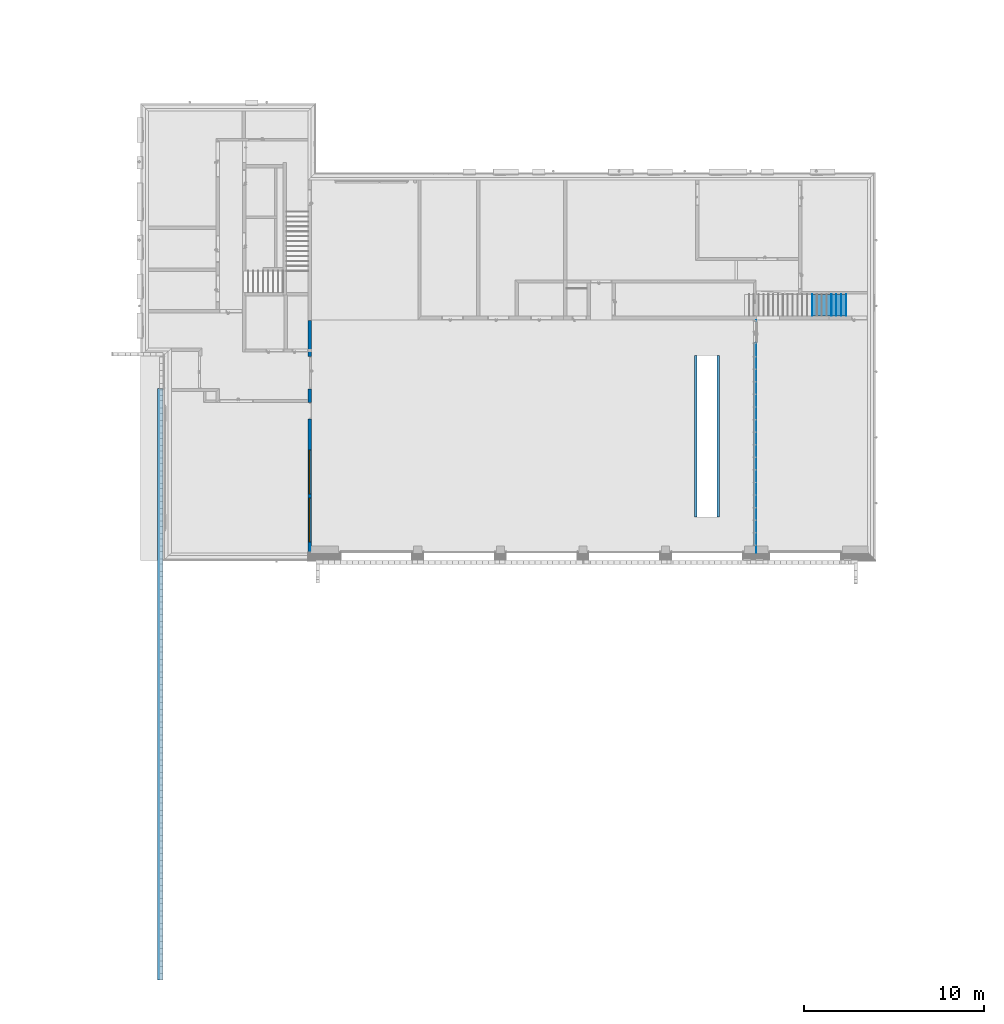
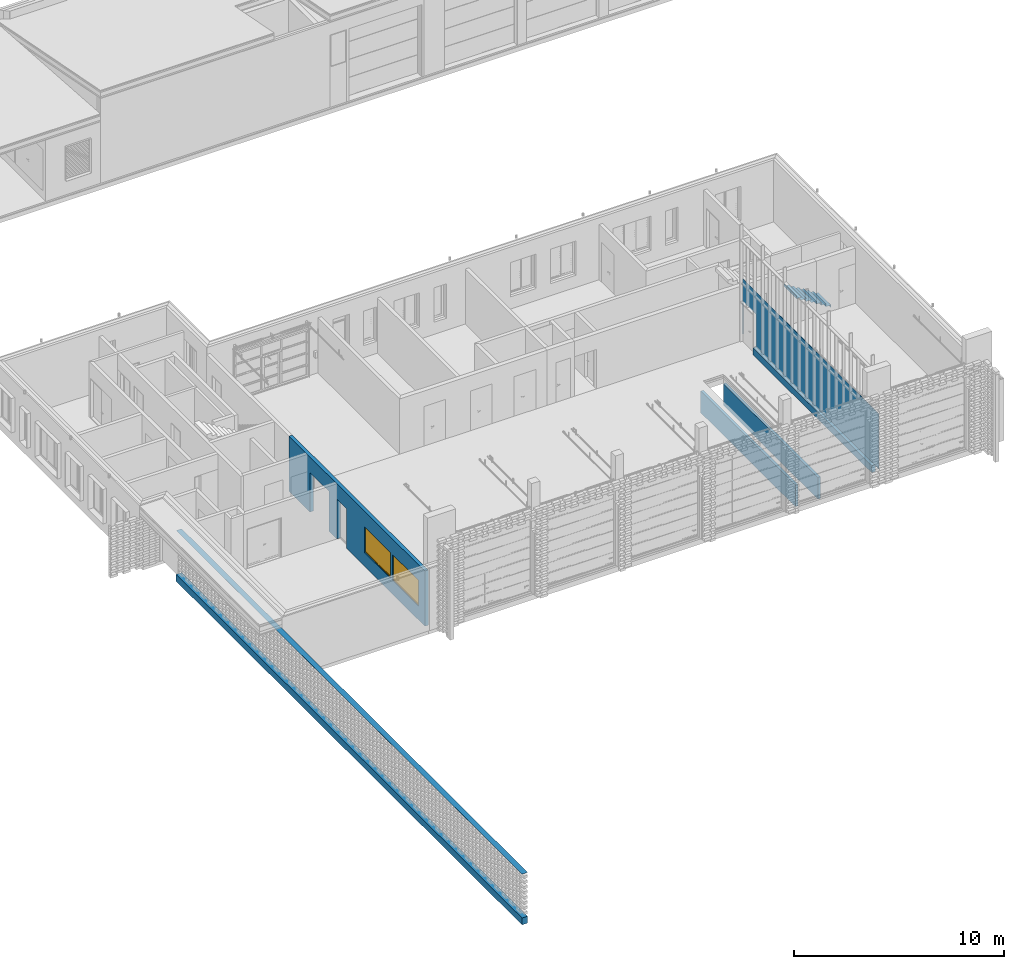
# One storey, part 6 of 62: 12 members, 7 walls, 2 windows, 5 openings, 1 element without a shape of its own.
"""IFC2X3 building model written with IfcOpenShell, lengths in millimetres."""

from ifc_helpers import new_model, entity, si_unit, converted_unit, derived_unit, money_unit, direction, frame, origin_with_axes, origin_2d_with_axis, place, context, subcontext, project, spatial, polyline, rectangle, outline, extrude, open_shell, faceted_brep, surface_model, source, transform, mapped, material, layer, layer_set, layer_usage, type_object, element, fill, aggregate, save


model = new_model("IFC2X3")

# Units and contexts
model_context = context("Model", 3, precision=0.01, world=origin_with_axes(), true_north=direction((0.0, 1.0)))
body_context = subcontext(model_context, "Body", "Model", "MODEL_VIEW")
ifc_project = project(units=[si_unit("LENGTHUNIT", "METRE", prefix="MILLI"), si_unit("AREAUNIT", "SQUARE_METRE"), si_unit("VOLUMEUNIT", "CUBIC_METRE"), converted_unit("PLANEANGLEUNIT", "DEGREE", entity("IfcPlaneAngleMeasure", 0.0174532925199), si_unit("PLANEANGLEUNIT", "RADIAN"), dimensions=[0, 0, 0, 0, 0, 0, 0]), si_unit("SOLIDANGLEUNIT", "STERADIAN"), money_unit("EUR"), converted_unit("TIMEUNIT", "Year", entity("IfcTimeMeasure", 31556926.0), si_unit("TIMEUNIT", "SECOND"), dimensions=[0, 0, 1, 0, 0, 0, 0]), si_unit("MASSUNIT", "GRAM", prefix="KILO"), si_unit("THERMODYNAMICTEMPERATUREUNIT", "DEGREE_CELSIUS"), si_unit("LUMINOUSINTENSITYUNIT", "LUMEN"), si_unit("ENERGYUNIT", "JOULE", prefix="MEGA"), derived_unit("THERMALCONDUCTANCEUNIT", [(si_unit("POWERUNIT", "WATT"), 1), (si_unit("LENGTHUNIT", "METRE"), -1), (si_unit("THERMODYNAMICTEMPERATUREUNIT", "KELVIN"), -1)]), derived_unit("SPECIFICHEATCAPACITYUNIT", [(si_unit("ENERGYUNIT", "JOULE"), 1), (si_unit("MASSUNIT", "GRAM", prefix="KILO"), -1), (si_unit("THERMODYNAMICTEMPERATUREUNIT", "KELVIN"), -1)]), derived_unit("MASSDENSITYUNIT", [(si_unit("MASSUNIT", "GRAM", prefix="KILO"), 1), (si_unit("VOLUMEUNIT", "CUBIC_METRE"), -1)])], contexts=[model_context])

# Site, building, storey
site_placement = place(None, origin_with_axes())
site = spatial("IfcSite", under=ifc_project, at=site_placement, Name="KIRDE 14, ELVA", CompositionType="ELEMENT")
building_placement = place(site_placement, origin_with_axes())
building = spatial("IfcBuilding", under=site, at=building_placement, Name="PPA ja Päästeameti ühishoone", CompositionType="ELEMENT")
storey_placement = place(building_placement, origin_with_axes())
storey = spatial("IfcBuildingStorey", under=building, at=storey_placement, Name="Esimene korrus", CompositionType="ELEMENT", Elevation=0.0)

# Stair, members
stair_placement = place(storey_placement, frame((38844.704885, 14400.0005642, 0.0), z_axis=(0.0, 0.0, 1.0), x_axis=(0.845542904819, 0.533907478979, 0.0)))
stair = element("IfcStair", 1, at=stair_placement, inside=storey, Name="TREPP", ShapeType="NOTDEFINED")
ifc_material_1 = material(Name="SV-02_Puit - Põrand")
member_type_1 = type_object("IfcMemberType", Name="IfcMember", PredefinedType="USERDEFINED")
member_1_placement = place(stair_placement, frame((-320.344487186, -507.325743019, 166.428571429), z_axis=(0.0, 0.0, 1.0), x_axis=(0.533907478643, 0.845542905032, 0.0)))
member_1 = element("IfcMember", 2, at=member_1_placement, type_object=member_type_1, material=ifc_material_1, Name="TV TÕUS - 021", ObjectType="Stair Riser", context=body_context, shape_type="Brep", body=[
    faceted_brep([(600.0, 0.0, 0.0), (600.0, 5.0, 0.0), (-600.0, 5.0, 0.0), (-600.0, 0.0, 0.0), (600.0, 0.0, -166.428571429), (600.0, 5.0, -166.428571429), (-600.0, 5.0, -166.428571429), (-600.0, 0.0, -166.428571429)], [[[0, 1, 2, 3]], [[0, 4, 5, 1]], [[1, 5, 6, 2]], [[3, 2, 6, 7]], [[4, 0, 3, 7]], [[5, 4, 7, 6]]]),
])
member_2_placement = place(stair_placement, frame((-548.641071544, -363.170723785, 337.857142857), z_axis=(0.0, 0.0, 1.0), x_axis=(0.533907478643, 0.845542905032, 0.0)))
member_2 = element("IfcMember", 3, at=member_2_placement, type_object=member_type_1, material=ifc_material_1, Name="TV TÕUS - 022", ObjectType="Stair Riser", context=body_context, shape_type="Brep", body=[
    faceted_brep([(600.0, 0.0, 0.0), (600.0, 5.0, 0.0), (-600.0, 5.0, 0.0), (-600.0, 0.0, 0.0), (600.0, 0.0, -166.428571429), (600.0, 5.0, -166.428571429), (-600.0, 5.0, -166.428571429), (-600.0, 0.0, -166.428571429)], [[[0, 1, 2, 3]], [[0, 4, 5, 1]], [[1, 5, 6, 2]], [[3, 2, 6, 7]], [[4, 0, 3, 7]], [[5, 4, 7, 6]]]),
])
member_3_placement = place(stair_placement, frame((-776.937655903, -219.015704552, 509.285714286), z_axis=(0.0, 0.0, 1.0), x_axis=(0.533907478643, 0.845542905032, 0.0)))
member_3 = element("IfcMember", 4, at=member_3_placement, type_object=member_type_1, material=ifc_material_1, Name="TV TÕUS - 023", ObjectType="Stair Riser", context=body_context, shape_type="Brep", body=[
    faceted_brep([(600.0, 0.0, 0.0), (600.0, 5.0, 0.0), (-600.0, 5.0, 0.0), (-600.0, 0.0, 0.0), (600.0, 0.0, -166.428571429), (600.0, 5.0, -166.428571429), (-600.0, 5.0, -166.428571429), (-600.0, 0.0, -166.428571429)], [[[0, 1, 2, 3]], [[0, 4, 5, 1]], [[1, 5, 6, 2]], [[3, 2, 6, 7]], [[4, 0, 3, 7]], [[5, 4, 7, 6]]]),
])
member_4_placement = place(stair_placement, frame((-1005.23424026, -74.8606853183, 680.714285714), z_axis=(0.0, 0.0, 1.0), x_axis=(0.533907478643, 0.845542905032, 0.0)))
member_4 = element("IfcMember", 5, at=member_4_placement, type_object=member_type_1, material=ifc_material_1, Name="TV TÕUS - 024", ObjectType="Stair Riser", context=body_context, shape_type="Brep", body=[
    faceted_brep([(600.0, 0.0, 0.0), (600.0, 5.0, 0.0), (-600.0, 5.0, 0.0), (-600.0, 0.0, 0.0), (600.0, 0.0, -166.428571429), (600.0, 5.0, -166.428571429), (-600.0, 5.0, -166.428571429), (-600.0, 0.0, -166.428571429)], [[[0, 1, 2, 3]], [[0, 4, 5, 1]], [[1, 5, 6, 2]], [[3, 2, 6, 7]], [[4, 0, 3, 7]], [[5, 4, 7, 6]]]),
])
member_5_placement = place(stair_placement, frame((-1918.4205777, 501.759391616, 1366.42857143), z_axis=(0.0, 0.0, 1.0), x_axis=(0.533907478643, 0.845542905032, 0.0)))
member_5 = element("IfcMember", 6, at=member_5_placement, type_object=member_type_1, material=ifc_material_1, Name="TV TÕUS - 028", ObjectType="Stair Riser", context=body_context, shape_type="Brep", body=[
    faceted_brep([(600.0, 0.0, 0.0), (600.0, 5.0, 0.0), (-600.0, 5.0, 0.0), (-600.0, 0.0, 0.0), (600.0, 0.0, -166.428571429), (600.0, 5.0, -166.428571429), (-600.0, 5.0, -166.428571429), (-600.0, 0.0, -166.428571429)], [[[0, 1, 2, 3]], [[0, 4, 5, 1]], [[1, 5, 6, 2]], [[3, 2, 6, 7]], [[4, 0, 3, 7]], [[5, 4, 7, 6]]]),
])
member_type_2 = type_object("IfcMemberType", Name="IfcMember", PredefinedType="USERDEFINED")
member_6_placement = place(stair_placement, frame((-320.344487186, -507.325743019, 171.428571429), z_axis=(0.0, 0.0, 1.0), x_axis=(0.533907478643, 0.845542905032, 0.0)))
member_6 = element("IfcMember", 7, at=member_6_placement, type_object=member_type_2, material=ifc_material_1, Name="TV ASTE - 021", ObjectType="Stair Tread", context=body_context, shape_type="Brep", body=[
    faceted_brep([(-600.0, 274.999996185, 0.0), (600.0, 274.999995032, 0.0), (600.0, 274.999995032, -5.0), (-600.0, 274.999996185, -5.0), (-600.0, 12.5, 0.0), (600.0, 12.5, 0.0), (600.0, 2.92444446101, -4.46515487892), (600.0, 2.54994187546, -5.0), (600.0, 10.3293977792, -0.189903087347), (600.0, 8.22474820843, -0.753842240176), (600.0, 6.25, -1.67468245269), (600.0, 4.46515487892, -2.92444446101), (-600.0, 2.54994187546, -5.0), (-600.0, 2.92444446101, -4.46515487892), (-600.0, 4.46515487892, -2.92444446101), (-600.0, 6.25, -1.67468245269), (-600.0, 8.22474820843, -0.753842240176), (-600.0, 10.3293977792, -0.189903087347)], [[[0, 1, 2, 3]], [[1, 0, 4, 5]], [[6, 7, 2, 1, 5, 8, 9, 10, 11]], [[7, 12, 3, 2]], [[4, 0, 3, 12, 13, 14, 15, 16, 17]], [[8, 5, 4, 17]], [[7, 6, 13, 12]], [[9, 8, 17, 16]], [[10, 9, 16, 15]], [[11, 10, 15, 14]], [[6, 11, 14, 13]]]),
])
member_7_placement = place(stair_placement, frame((-548.641071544, -363.170723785, 342.857142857), z_axis=(0.0, 0.0, 1.0), x_axis=(0.533907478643, 0.845542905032, 0.0)))
member_7 = element("IfcMember", 8, at=member_7_placement, type_object=member_type_2, material=ifc_material_1, Name="TV ASTE - 022", ObjectType="Stair Tread", context=body_context, shape_type="Brep", body=[
    faceted_brep([(-600.0, 274.999996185, 0.0), (600.0, 274.999995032, 0.0), (600.0, 274.999995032, -5.0), (-600.0, 274.999996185, -5.0), (-600.0, 12.5, 0.0), (600.0, 12.5, 0.0), (600.0, 2.92444446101, -4.46515487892), (600.0, 2.54994187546, -5.0), (600.0, 10.3293977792, -0.189903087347), (600.0, 8.22474820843, -0.753842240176), (600.0, 6.25, -1.67468245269), (600.0, 4.46515487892, -2.92444446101), (-600.0, 2.54994187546, -5.0), (-600.0, 2.92444446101, -4.46515487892), (-600.0, 4.46515487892, -2.92444446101), (-600.0, 6.25, -1.67468245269), (-600.0, 8.22474820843, -0.753842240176), (-600.0, 10.3293977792, -0.189903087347)], [[[0, 1, 2, 3]], [[1, 0, 4, 5]], [[6, 7, 2, 1, 5, 8, 9, 10, 11]], [[7, 12, 3, 2]], [[4, 0, 3, 12, 13, 14, 15, 16, 17]], [[8, 5, 4, 17]], [[7, 6, 13, 12]], [[9, 8, 17, 16]], [[10, 9, 16, 15]], [[11, 10, 15, 14]], [[6, 11, 14, 13]]]),
])
member_8_placement = place(stair_placement, frame((-776.937655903, -219.015704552, 514.285714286), z_axis=(0.0, 0.0, 1.0), x_axis=(0.533907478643, 0.845542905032, 0.0)))
member_8 = element("IfcMember", 9, at=member_8_placement, type_object=member_type_2, material=ifc_material_1, Name="TV ASTE - 023", ObjectType="Stair Tread", context=body_context, shape_type="Brep", body=[
    faceted_brep([(-600.0, 274.999996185, 0.0), (600.0, 274.999995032, 0.0), (600.0, 274.999995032, -5.0), (-600.0, 274.999996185, -5.0), (-600.0, 12.5, 0.0), (600.0, 12.5, 0.0), (600.0, 2.92444446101, -4.46515487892), (600.0, 2.54994187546, -5.0), (600.0, 10.3293977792, -0.189903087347), (600.0, 8.22474820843, -0.753842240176), (600.0, 6.25, -1.67468245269), (600.0, 4.46515487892, -2.92444446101), (-600.0, 2.54994187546, -5.0), (-600.0, 2.92444446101, -4.46515487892), (-600.0, 4.46515487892, -2.92444446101), (-600.0, 6.25, -1.67468245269), (-600.0, 8.22474820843, -0.753842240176), (-600.0, 10.3293977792, -0.189903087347)], [[[0, 1, 2, 3]], [[1, 0, 4, 5]], [[6, 7, 2, 1, 5, 8, 9, 10, 11]], [[7, 12, 3, 2]], [[4, 0, 3, 12, 13, 14, 15, 16, 17]], [[8, 5, 4, 17]], [[7, 6, 13, 12]], [[9, 8, 17, 16]], [[10, 9, 16, 15]], [[11, 10, 15, 14]], [[6, 11, 14, 13]]]),
])
member_9_placement = place(stair_placement, frame((-1005.23424026, -74.8606853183, 685.714285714), z_axis=(0.0, 0.0, 1.0), x_axis=(0.533907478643, 0.845542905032, 0.0)))
member_9 = element("IfcMember", 10, at=member_9_placement, type_object=member_type_2, material=ifc_material_1, Name="TV ASTE - 024", ObjectType="Stair Tread", context=body_context, shape_type="Brep", body=[
    faceted_brep([(-600.0, 274.999996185, 0.0), (600.0, 274.999995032, 0.0), (600.0, 274.999995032, -5.0), (-600.0, 274.999996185, -5.0), (-600.0, 12.5, 0.0), (600.0, 12.5, 0.0), (600.0, 2.92444446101, -4.46515487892), (600.0, 2.54994187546, -5.0), (600.0, 10.3293977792, -0.189903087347), (600.0, 8.22474820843, -0.753842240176), (600.0, 6.25, -1.67468245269), (600.0, 4.46515487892, -2.92444446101), (-600.0, 2.54994187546, -5.0), (-600.0, 2.92444446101, -4.46515487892), (-600.0, 4.46515487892, -2.92444446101), (-600.0, 6.25, -1.67468245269), (-600.0, 8.22474820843, -0.753842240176), (-600.0, 10.3293977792, -0.189903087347)], [[[0, 1, 2, 3]], [[1, 0, 4, 5]], [[6, 7, 2, 1, 5, 8, 9, 10, 11]], [[7, 12, 3, 2]], [[4, 0, 3, 12, 13, 14, 15, 16, 17]], [[8, 5, 4, 17]], [[7, 6, 13, 12]], [[9, 8, 17, 16]], [[10, 9, 16, 15]], [[11, 10, 15, 14]], [[6, 11, 14, 13]]]),
])
member_10_placement = place(stair_placement, frame((-1233.53082462, 69.2943339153, 857.142857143), z_axis=(0.0, 0.0, 1.0), x_axis=(0.533907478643, 0.845542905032, 0.0)))
member_10 = element("IfcMember", 11, at=member_10_placement, type_object=member_type_2, material=ifc_material_1, Name="TV ASTE - 025", ObjectType="Stair Tread", context=body_context, shape_type="Brep", body=[
    faceted_brep([(-600.0, 274.999996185, 0.0), (600.0, 274.999995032, 0.0), (600.0, 274.999995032, -5.0), (-600.0, 274.999996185, -5.0), (-600.0, 12.5, 0.0), (600.0, 12.5, 0.0), (600.0, 2.92444446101, -4.46515487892), (600.0, 2.54994187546, -5.0), (600.0, 10.3293977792, -0.189903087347), (600.0, 8.22474820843, -0.753842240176), (600.0, 6.25, -1.67468245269), (600.0, 4.46515487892, -2.92444446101), (-600.0, 2.54994187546, -5.0), (-600.0, 2.92444446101, -4.46515487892), (-600.0, 4.46515487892, -2.92444446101), (-600.0, 6.25, -1.67468245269), (-600.0, 8.22474820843, -0.753842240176), (-600.0, 10.3293977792, -0.189903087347)], [[[0, 1, 2, 3]], [[1, 0, 4, 5]], [[6, 7, 2, 1, 5, 8, 9, 10, 11]], [[7, 12, 3, 2]], [[4, 0, 3, 12, 13, 14, 15, 16, 17]], [[8, 5, 4, 17]], [[7, 6, 13, 12]], [[9, 8, 17, 16]], [[10, 9, 16, 15]], [[11, 10, 15, 14]], [[6, 11, 14, 13]]]),
])
member_11_placement = place(stair_placement, frame((-1461.82740898, 213.449353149, 1028.57142857), z_axis=(0.0, 0.0, 1.0), x_axis=(0.533907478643, 0.845542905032, 0.0)))
member_11 = element("IfcMember", 12, at=member_11_placement, type_object=member_type_2, material=ifc_material_1, Name="TV ASTE - 026", ObjectType="Stair Tread", context=body_context, shape_type="Brep", body=[
    faceted_brep([(-600.0, 274.999996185, 0.0), (600.0, 274.999995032, 0.0), (600.0, 274.999995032, -5.0), (-600.0, 274.999996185, -5.0), (-600.0, 12.5, 0.0), (600.0, 12.5, 0.0), (600.0, 2.92444446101, -4.46515487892), (600.0, 2.54994187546, -5.0), (600.0, 10.3293977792, -0.189903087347), (600.0, 8.22474820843, -0.753842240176), (600.0, 6.25, -1.67468245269), (600.0, 4.46515487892, -2.92444446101), (-600.0, 2.54994187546, -5.0), (-600.0, 2.92444446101, -4.46515487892), (-600.0, 4.46515487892, -2.92444446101), (-600.0, 6.25, -1.67468245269), (-600.0, 8.22474820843, -0.753842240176), (-600.0, 10.3293977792, -0.189903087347)], [[[0, 1, 2, 3]], [[1, 0, 4, 5]], [[6, 7, 2, 1, 5, 8, 9, 10, 11]], [[7, 12, 3, 2]], [[4, 0, 3, 12, 13, 14, 15, 16, 17]], [[8, 5, 4, 17]], [[7, 6, 13, 12]], [[9, 8, 17, 16]], [[10, 9, 16, 15]], [[11, 10, 15, 14]], [[6, 11, 14, 13]]]),
])
member_12_placement = place(stair_placement, frame((-1690.12399334, 357.604372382, 1200.0), z_axis=(0.0, 0.0, 1.0), x_axis=(0.533907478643, 0.845542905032, 0.0)))
member_12 = element("IfcMember", 13, at=member_12_placement, type_object=member_type_2, material=ifc_material_1, Name="TV ASTE - 027", ObjectType="Stair Tread", context=body_context, shape_type="Brep", body=[
    faceted_brep([(-600.0, 274.999996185, 0.0), (600.0, 274.999995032, 0.0), (600.0, 274.999995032, -5.0), (-600.0, 274.999996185, -5.0), (-600.0, 12.5, 0.0), (600.0, 12.5, 0.0), (600.0, 2.92444446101, -4.46515487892), (600.0, 2.54994187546, -5.0), (600.0, 10.3293977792, -0.189903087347), (600.0, 8.22474820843, -0.753842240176), (600.0, 6.25, -1.67468245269), (600.0, 4.46515487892, -2.92444446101), (-600.0, 2.54994187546, -5.0), (-600.0, 2.92444446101, -4.46515487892), (-600.0, 4.46515487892, -2.92444446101), (-600.0, 6.25, -1.67468245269), (-600.0, 8.22474820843, -0.753842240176), (-600.0, 10.3293977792, -0.189903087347)], [[[0, 1, 2, 3]], [[1, 0, 4, 5]], [[6, 7, 2, 1, 5, 8, 9, 10, 11]], [[7, 12, 3, 2]], [[4, 0, 3, 12, 13, 14, 15, 16, 17]], [[8, 5, 4, 17]], [[7, 6, 13, 12]], [[9, 8, 17, 16]], [[10, 9, 16, 15]], [[11, 10, 15, 14]], [[6, 11, 14, 13]]]),
])
aggregate(stair, [member_1, member_2, member_3, member_4, member_5, member_6, member_7, member_8, member_9, member_10, member_11, member_12])

# Wall, openings, windows
ifc_material_2 = material(Name="COLUMBIA KIVI (BETONEERITUD)")
ifc_layer_1 = layer(ifc_material_2, 190.0, ventilated="UNKNOWN")
ifc_layer_set_1 = layer_set([ifc_layer_1], Name="SS-02")
ifc_layer_usage_1 = layer_usage(ifc_layer_set_1, "AXIS2", "NEGATIVE", 190.0)
wall_type_1 = type_object("IfcWallType", Name="SS-02 190", PredefinedType="USERDEFINED")
wall_1_placement = place(storey_placement, frame((9090.00014048, -0.000107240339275, 0.0), z_axis=(0.0, 0.0, 1.0), x_axis=(0.0, 1.0, 0.0)))
wall_1 = element("IfcWallStandardCase", 14, at=wall_1_placement, inside=storey, type_object=wall_type_1, material=ifc_layer_usage_1, Name="SS-02", ObjectType="PARTITIONING", context=body_context, shape_type="SweptSolid", body=[
    extrude(outline(polyline([(2.69473332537e-09, 0.0), (12939.0001896, 0.0), (12939.0001896, 190.0), (-6.54818421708e-08, 190.0), (2.69473332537e-09, 0.0)])), origin_with_axes(), (0.0, 0.0, 1.0), 3200.0),
])
opening_1_placement = place(wall_1_placement, frame((4507.74993761, 0.0, 800.0), z_axis=(0.0, 0.0, 1.0), x_axis=(1.0, 0.0, 0.0)))
opening_1 = element("IfcOpeningElement", 15, at=opening_1_placement, cuts=wall_1, Name="SA-04", context=body_context, shape_type="SweptSolid", body=[
    extrude(rectangle(XDim=2471.5, YDim=1500.0, at=origin_2d_with_axis()), frame((0.0, 80.0, 750.0), z_axis=(0.0, 1.0, 0.0), x_axis=(-1.0, 0.0, 0.0)), (0.0, 0.0, 1.0), 300.0),
    extrude(rectangle(XDim=2471.5, YDim=1500.0, at=origin_2d_with_axis()), frame((0.0, 80.0, 750.0), z_axis=(0.0, -1.0, 0.0), x_axis=(-1.0, 0.0, 0.0)), (0.0, 0.0, 1.0), 270.0),
])
opening_2_placement = place(wall_1_placement, frame((1836.24993761, 0.0, 800.0), z_axis=(0.0, 0.0, 1.0), x_axis=(1.0, 0.0, 0.0)))
opening_2 = element("IfcOpeningElement", 16, at=opening_2_placement, cuts=wall_1, Name="SA-04", context=body_context, shape_type="SweptSolid", body=[
    extrude(rectangle(XDim=2471.5, YDim=1500.0, at=origin_2d_with_axis()), frame((0.0, 80.0, 750.0), z_axis=(0.0, 1.0, 0.0), x_axis=(-1.0, 0.0, 0.0)), (0.0, 0.0, 1.0), 300.0),
    extrude(rectangle(XDim=2471.5, YDim=1500.0, at=origin_2d_with_axis()), frame((0.0, 80.0, 750.0), z_axis=(0.0, -1.0, 0.0), x_axis=(-1.0, 0.0, 0.0)), (0.0, 0.0, 1.0), 270.0),
])
opening_3_placement = place(wall_1_placement, frame((10030.3802884, 0.0, 0.0), z_axis=(0.0, 0.0, 1.0), x_axis=(1.0, 0.0, 0.0)))
element("IfcOpeningElement", 17, at=opening_3_placement, cuts=wall_1, Name="SU-02*", context=body_context, shape_type="SweptSolid", body=[
    extrude(rectangle(XDim=1800.0, YDim=2300.0, at=origin_2d_with_axis()), frame((0.0, 190.0, 1150.0), z_axis=(0.0, 1.0, 0.0), x_axis=(1.0, 0.0, 0.0)), (0.0, 0.0, -1.0), 570.0),
])
opening_4_placement = place(wall_1_placement, frame((7915.93251273, 0.0, 0.0), z_axis=(0.0, 0.0, 1.0), x_axis=(1.0, 0.0, 0.0)))
element("IfcOpeningElement", 18, at=opening_4_placement, cuts=wall_1, Name="SU-06", context=body_context, shape_type="SweptSolid", body=[
    extrude(rectangle(XDim=900.0, YDim=2300.0, at=origin_2d_with_axis()), frame((0.0, 190.0, 1150.0), z_axis=(0.0, 1.0, 0.0), x_axis=(1.0, 0.0, 0.0)), (0.0, 0.0, -1.0), 570.0),
])
window_style = type_object("IfcWindowStyle", Name="Window 24", ConstructionType="NOTDEFINED", OperationType="SINGLE_PANEL", ParameterTakesPrecedence=False, Sizeable=False)
shared_shape = source(origin_with_axes(), body_context, "Body", "SurfaceModel", [
    faceted_brep([(1228.75, 0.0, 1468.0), (1228.75, -25.0, 1468.0), (1203.75, -25.0, 1468.0), (1203.75, -40.0, 1468.0), (1235.75, -40.0, 1468.0), (1235.75, 0.0, 1468.0), (1228.75, 0.0, 32.0), (1228.75, -25.0, 32.0), (1203.75, -25.0, 32.0), (1203.75, -40.0, 32.0), (1235.75, -40.0, 32.0), (1235.75, 0.0, 32.0)], [[[0, 1, 2, 3, 4, 5]], [[1, 0, 6, 7]], [[8, 2, 1, 7]], [[2, 8, 9, 3]], [[4, 3, 9, 10]], [[5, 4, 10, 11]], [[6, 0, 5, 11]], [[7, 6, 11, 10, 9, 8]]]),
    faceted_brep([(-1203.75, -25.0, 1468.0), (-1228.75, -25.0, 1468.0), (-1228.75, 0.0, 1468.0), (-1235.75, 0.0, 1468.0), (-1235.75, -40.0, 1468.0), (-1203.75, -40.0, 1468.0), (-1203.75, -25.0, 32.0), (-1228.75, -25.0, 32.0), (-1228.75, 0.0, 32.0), (-1235.75, 0.0, 32.0), (-1235.75, -40.0, 32.0), (-1203.75, -40.0, 32.0)], [[[0, 1, 2, 3, 4, 5]], [[1, 0, 6, 7]], [[8, 2, 1, 7]], [[2, 8, 9, 3]], [[9, 10, 4, 3]], [[10, 11, 5, 4]], [[6, 0, 5, 11]], [[7, 6, 11, 10, 9, 8]]]),
    faceted_brep([(-1203.75, -25.0, 32.0), (-1228.75, -25.0, 32.0), (-1228.75, 0.0, 32.0), (-1235.75, 0.0, 32.0), (-1235.75, -40.0, 32.0), (-1203.75, -40.0, 32.0), (1203.75, -25.0, 32.0), (1228.75, -25.0, 32.0), (1228.75, -25.0, 7.0), (-1228.75, -25.0, 7.0), (-1228.75, 0.0, 7.0), (1228.75, 0.0, 7.0), (1228.75, 0.0, 32.0), (1235.75, 0.0, 32.0), (1235.75, 0.0, 0.0), (-1235.75, 0.0, 0.0), (-1235.75, -40.0, 0.0), (1235.75, -40.0, 32.0), (1203.75, -40.0, 32.0), (1235.75, -40.0, 0.0)], [[[0, 1, 2, 3, 4, 5]], [[1, 0, 6, 7, 8, 9]], [[10, 2, 1, 9]], [[11, 12, 13, 14, 15, 3, 2, 10]], [[15, 16, 4, 3]], [[17, 18, 5, 4, 16, 19]], [[6, 0, 5, 18]], [[7, 6, 18, 17, 13, 12]], [[7, 12, 11, 8]], [[11, 10, 9, 8]], [[13, 17, 19, 14]], [[14, 19, 16, 15]]]),
    faceted_brep([(1228.75, 0.0, 1468.0), (1228.75, 0.0, 1493.0), (-1228.75, 0.0, 1493.0), (-1228.75, 0.0, 1468.0), (-1235.75, 0.0, 1468.0), (-1235.75, 0.0, 1500.0), (1235.75, 0.0, 1500.0), (1235.75, 0.0, 1468.0), (1228.75, -25.0, 1468.0), (1228.75, -25.0, 1493.0), (-1228.75, -25.0, 1493.0), (-1228.75, -25.0, 1468.0), (-1203.75, -25.0, 1468.0), (-1203.75, -40.0, 1468.0), (-1235.75, -40.0, 1468.0), (-1235.75, -40.0, 1500.0), (1235.75, -40.0, 1500.0), (1235.75, -40.0, 1468.0), (1203.75, -40.0, 1468.0), (1203.75, -25.0, 1468.0)], [[[0, 1, 2, 3, 4, 5, 6, 7]], [[1, 0, 8, 9]], [[2, 1, 9, 10]], [[3, 2, 10, 11]], [[11, 12, 13, 14, 4, 3]], [[4, 14, 15, 5]], [[5, 15, 16, 6]], [[6, 16, 17, 7]], [[8, 0, 7, 17, 18, 19]], [[12, 11, 10, 9, 8, 19]], [[12, 19, 18, 13]], [[14, 13, 18, 17, 16, 15]]]),
    faceted_brep([(1178.75, -25.0, 1443.0), (1228.75, -25.0, 1443.0), (1228.75, 25.0, 1443.0), (1178.75, 25.0, 1443.0), (1178.75, -25.0, 57.0), (1228.75, -25.0, 57.0), (1228.75, 25.0, 57.0), (1178.75, 25.0, 57.0)], [[[0, 1, 2, 3]], [[0, 4, 5, 1]], [[1, 5, 6, 2]], [[3, 2, 6, 7]], [[4, 0, 3, 7]], [[5, 4, 7, 6]]]),
    faceted_brep([(-1178.75, -25.0, 57.0), (-1228.75, -25.0, 57.0), (-1228.75, 25.0, 57.0), (-1178.75, 25.0, 57.0), (-1178.75, -25.0, 1443.0), (-1228.75, -25.0, 1443.0), (-1228.75, 25.0, 1443.0), (-1178.75, 25.0, 1443.0)], [[[0, 1, 2, 3]], [[0, 4, 5, 1]], [[1, 5, 6, 2]], [[3, 2, 6, 7]], [[4, 0, 3, 7]], [[5, 4, 7, 6]]]),
    faceted_brep([(-1228.75, -25.0, 7.0), (-1228.75, -25.0, 57.0), (-1228.75, 25.0, 57.0), (-1228.75, 25.0, 7.0), (1228.75, -25.0, 7.0), (1228.75, -25.0, 57.0), (1178.75, -25.0, 57.0), (-1178.75, -25.0, 57.0), (-1178.75, 25.0, 57.0), (1178.75, 25.0, 57.0), (1228.75, 25.0, 57.0), (1228.75, 25.0, 7.0)], [[[0, 1, 2, 3]], [[0, 4, 5, 6, 7, 1]], [[1, 7, 8, 2]], [[3, 2, 8, 9, 10, 11]], [[4, 0, 3, 11]], [[5, 4, 11, 10]], [[6, 5, 10, 9]], [[7, 6, 9, 8]]]),
    faceted_brep([(1228.75, -25.0, 1493.0), (1228.75, -25.0, 1443.0), (1228.75, 25.0, 1443.0), (1228.75, 25.0, 1493.0), (-1228.75, -25.0, 1493.0), (-1228.75, -25.0, 1443.0), (-1178.75, -25.0, 1443.0), (1178.75, -25.0, 1443.0), (1178.75, 25.0, 1443.0), (-1178.75, 25.0, 1443.0), (-1228.75, 25.0, 1443.0), (-1228.75, 25.0, 1493.0)], [[[0, 1, 2, 3]], [[0, 4, 5, 6, 7, 1]], [[1, 7, 8, 2]], [[3, 2, 8, 9, 10, 11]], [[4, 0, 3, 11]], [[5, 4, 11, 10]], [[6, 5, 10, 9]], [[7, 6, 9, 8]]]),
    surface_model("IfcShellBasedSurfaceModel", [(31.0, -10.0, 57.0), (1178.75, -10.0, 57.0), (1178.75, -10.0, 1443.0), (31.0, -10.0, 1443.0)], [open_shell([[[0, 1, 2, 3]]])]),
    surface_model("IfcShellBasedSurfaceModel", [(31.0, 10.0, 57.0), (31.0, 10.0, 1443.0), (1178.75, 10.0, 1443.0), (1178.75, 10.0, 57.0)], [open_shell([[[0, 1, 2, 3]]])]),
    surface_model("IfcShellBasedSurfaceModel", [(-1178.75, -10.0, 57.0), (-31.0, -10.0, 57.0), (-31.0, -10.0, 1443.0), (-1178.75, -10.0, 1443.0)], [open_shell([[[0, 1, 2, 3]]])]),
    surface_model("IfcShellBasedSurfaceModel", [(-1178.75, 10.0, 57.0), (-1178.75, 10.0, 1443.0), (-31.0, 10.0, 1443.0), (-31.0, 10.0, 57.0)], [open_shell([[[0, 1, 2, 3]]])]),
    faceted_brep([(31.0, -12.5, 57.0), (-31.0, -12.5, 57.0), (-31.0, 12.5, 57.0), (31.0, 12.5, 57.0), (31.0, -12.5, 1443.0), (-31.0, -12.5, 1443.0), (-31.0, 12.5, 1443.0), (31.0, 12.5, 1443.0)], [[[0, 1, 2, 3]], [[0, 4, 5, 1]], [[1, 5, 6, 2]], [[3, 2, 6, 7]], [[4, 0, 3, 7]], [[5, 4, 7, 6]]]),
])
window_1_placement = place(opening_1_placement, frame((-1235.75, 0.0, 0.0), z_axis=(0.0, 0.0, 1.0), x_axis=(1.0, 0.0, 0.0)))
window_1 = element("IfcWindow", 19, at=window_1_placement, inside=storey, type_object=window_style, Name="SA-04", ObjectType="WINDOW", OverallHeight=1500.0, OverallWidth=2471.5, context=body_context, shape_type="MappedRepresentation", body=[
    mapped(shared_shape, transform((1235.75, 120.0, 0.0))),
])
fill(opening_1, window_1)
window_2_placement = place(opening_2_placement, frame((-1235.75, 0.0, 0.0), z_axis=(0.0, 0.0, 1.0), x_axis=(1.0, 0.0, 0.0)))
window_2 = element("IfcWindow", 20, at=window_2_placement, inside=storey, type_object=window_style, Name="SA-04", ObjectType="WINDOW", OverallHeight=1500.0, OverallWidth=2471.5, context=body_context, shape_type="MappedRepresentation", body=[
    mapped(shared_shape, transform((1235.75, 120.0, 0.0))),
])
fill(opening_2, window_2)

# Walls
ifc_material_3 = material(Name="Raudbetoon Paneelid")
ifc_layer_2 = layer(ifc_material_3, 200.0, ventilated="UNKNOWN")
ifc_layer_set_2 = layer_set([ifc_layer_2], Name="Raudbetoon Paneelid 200")
ifc_layer_usage_2 = layer_usage(ifc_layer_set_2, "AXIS2", "NEGATIVE", 200.0)
wall_type_2 = type_object("IfcWallType", Name="Raudbetoon Paneelid 200", PredefinedType="USERDEFINED")
wall_2_placement = place(storey_placement, frame((33885.0006987, 398.999782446, 0.0), z_axis=(0.0, 0.0, 1.0), x_axis=(0.0, 1.0, 0.0)))
element("IfcWallStandardCase", 21, at=wall_2_placement, inside=storey, type_object=wall_type_2, material=ifc_layer_usage_2, Name="SS-03", ObjectType="PARTITIONING", context=body_context, shape_type="SweptSolid", body=[
    extrude(outline(polyline([(0.0, 0.0), (11311.0007971, 0.0), (11311.0007971, 200.0), (0.0, 200.0), (0.0, 0.0)])), origin_with_axes(), (0.0, 0.0, 1.0), 400.0),
])
ifc_layer_3 = layer(ifc_material_3, 140.0, ventilated="UNKNOWN")
ifc_layer_set_3 = layer_set([ifc_layer_3], Name="Raudbetoon Paneelid 140")
ifc_layer_usage_3 = layer_usage(ifc_layer_set_3, "AXIS2", "NEGATIVE", 140.0)
wall_type_3 = type_object("IfcWallType", Name="Raudbetoon Paneelid 140", PredefinedType="NOTDEFINED")
wall_3_placement = place(storey_placement, frame((31650.1724135, 10999.999896, -1800.0), z_axis=(0.0, 0.0, 1.0), x_axis=(0.0, -1.0, 0.0)))
element("IfcWallStandardCase", 22, at=wall_3_placement, inside=storey, type_object=wall_type_3, material=ifc_layer_usage_3, Name="SS-03", context=body_context, shape_type="SweptSolid", body=[
    extrude(outline(polyline([(0.0, 0.0), (9000.0, 0.0), (9000.0, 140.0), (0.0, 140.0), (0.0, 0.0)])), origin_with_axes(), (0.0, 0.0, 1.0), 1265.0),
])
ifc_layer_usage_4 = layer_usage(ifc_layer_set_3, "AXIS2", "NEGATIVE", 140.0)
wall_4_placement = place(storey_placement, frame((30550.1724134, 1999.99983267, -1800.0), z_axis=(0.0, 0.0, 1.0), x_axis=(0.0, 1.0, 0.0)))
element("IfcWallStandardCase", 23, at=wall_4_placement, inside=storey, type_object=wall_type_3, material=ifc_layer_usage_4, Name="SS-03", context=body_context, shape_type="SweptSolid", body=[
    extrude(outline(polyline([(0.0, 0.0), (9000.0, 0.0), (9000.0, 140.0), (0.0, 140.0), (0.0, 0.0)])), origin_with_axes(), (0.0, 0.0, 1.0), 1265.0),
])

# Wall, opening
ifc_material_4 = material(Name="Kihtplast")
ifc_layer_4 = layer(ifc_material_4, 10.0, ventilated="UNKNOWN")
ifc_layer_set_4 = layer_set([ifc_layer_4], Name="SS-08 KIHTPLAST 10mm")
ifc_layer_usage_5 = layer_usage(ifc_layer_set_4, "AXIS2", "POSITIVE", -10.0)
wall_type_4 = type_object("IfcWallType", Name="SS-08 KIHTPLAST 10mm 10", PredefinedType="USERDEFINED")
wall_5_placement = place(storey_placement, frame((33855.0006989, 12960.000566, 400.0), z_axis=(0.0, 0.0, 1.0), x_axis=(0.0, -1.0, 0.0)))
wall_5 = element("IfcWallStandardCase", 24, at=wall_5_placement, inside=storey, type_object=wall_type_4, material=ifc_layer_usage_5, Name="SS-08", ObjectType="PARTITIONING", context=body_context, shape_type="SweptSolid", body=[
    extrude(outline(polyline([(-5.41714761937e-06, -10.0), (12961.0006629, -10.0), (12961.0006629, 0.0), (-5.40840972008e-06, 0.0), (-5.41714761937e-06, -10.0)])), origin_with_axes(), (0.0, 0.0, 1.0), 3200.0),
])
opening_5_placement = place(wall_5_placement, frame((649.999986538, 0.0, -400.0), z_axis=(0.0, 0.0, 1.0), x_axis=(1.0, 0.0, 0.0)))
element("IfcOpeningElement", 25, at=opening_5_placement, cuts=wall_5, Name="SU-11", context=body_context, shape_type="SweptSolid", body=[
    extrude(rectangle(XDim=1200.0, YDim=2300.0, at=origin_2d_with_axis()), frame((0.0, 10.0, 1150.0), z_axis=(0.0, -1.0, 0.0), x_axis=(-1.0, 0.0, 0.0)), (0.0, 0.0, 1.0), 30.0),
])

# Walls
ifc_material_5 = material(Name="Concrete")
ifc_layer_5 = layer(ifc_material_5, 300.0, ventilated="UNKNOWN")
ifc_layer_set_5 = layer_set([ifc_layer_5], Name="Concrete 300")
ifc_layer_usage_6 = layer_usage(ifc_layer_set_5, "AXIS2", "POSITIVE", 0.0)
wall_type_5 = type_object("IfcWallType", Name="Concrete 300", PredefinedType="NOTDEFINED")
wall_6_placement = place(storey_placement, frame((520.000153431, 9146.92448748, 0.0), z_axis=(0.0, 0.0, 1.0), x_axis=(0.0, -1.0, 0.0)))
element("IfcWallStandardCase", 26, at=wall_6_placement, inside=storey, type_object=wall_type_5, material=ifc_layer_usage_6, Name="VS-SOKKEL", context=body_context, shape_type="SweptSolid", body=[
    extrude(outline(polyline([(0.0, 0.0), (32920.764327, 0.0), (32920.764327, 300.0), (0.0, 300.0), (0.0, 0.0)])), origin_with_axes(), (0.0, 0.0, 1.0), 400.0),
])
ifc_layer_usage_7 = layer_usage(ifc_layer_set_5, "AXIS2", "POSITIVE", 0.0)
wall_7_placement = place(storey_placement, frame((520.000153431, 9146.92448748, 2945.0), z_axis=(0.0, 0.0, 1.0), x_axis=(0.0, -1.0, 0.0)))
element("IfcWallStandardCase", 27, at=wall_7_placement, inside=storey, type_object=wall_type_5, material=ifc_layer_usage_7, Name="VS-SOKKEL", context=body_context, shape_type="SweptSolid", body=[
    extrude(outline(polyline([(0.0, 0.0), (32920.764327, 0.0), (32920.764327, 300.0), (0.0, 300.0), (0.0, 0.0)])), origin_with_axes(), (0.0, 0.0, 1.0), 5.0),
])

save(model, "model.ifc")
